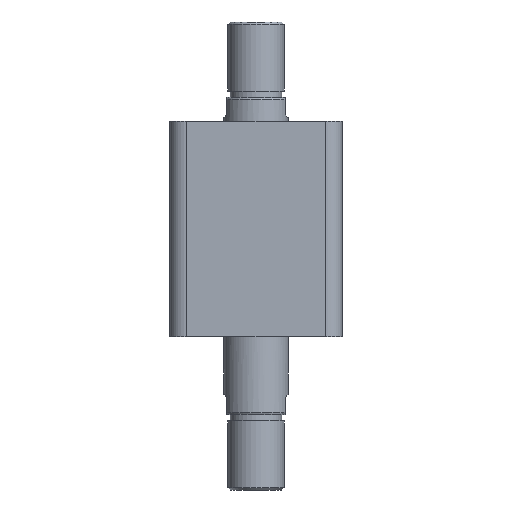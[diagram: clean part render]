
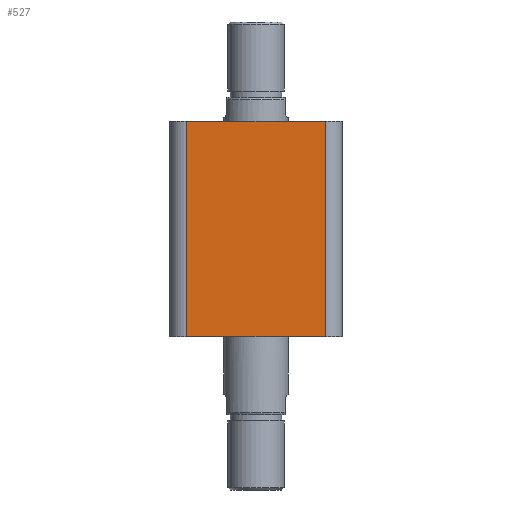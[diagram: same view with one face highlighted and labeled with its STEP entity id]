
A CAD part, front view. The second image highlights one B-rep face of the part: STEP entity #527.
In plain terms, the highlighted planar face has unit normal (0, -1, 0).
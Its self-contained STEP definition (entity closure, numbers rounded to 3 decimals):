
#31 = EDGE_LOOP ( 'NONE', ( #1090, #1091, #1092, #1093 ) ) ;
#303 = LINE ( 'NONE', #2541, #316 ) ;
#309 = LINE ( 'NONE', #2551, #312 ) ;
#311 = LINE ( 'NONE', #2553, #314 ) ;
#312 = VECTOR ( 'NONE', #2552, 1000. ) ;
#314 = VECTOR ( 'NONE', #2554, 1000. ) ;
#315 = LINE ( 'NONE', #2556, #318 ) ;
#316 = VECTOR ( 'NONE', #2555, 1000. ) ;
#318 = VECTOR ( 'NONE', #2557, 1000. ) ;
#527 = ADVANCED_FACE ( 'NONE', ( #3274 ), #1776, .F. ) ;
#715 = CARTESIAN_POINT ( 'NONE',  ( 32., -40., 0. ) ) ;
#1090 = ORIENTED_EDGE ( 'NONE', *, *, #2158, .F. ) ;
#1091 = ORIENTED_EDGE ( 'NONE', *, *, #2159, .T. ) ;
#1092 = ORIENTED_EDGE ( 'NONE', *, *, #2160, .T. ) ;
#1093 = ORIENTED_EDGE ( 'NONE', *, *, #2161, .T. ) ;
#1369 = VERTEX_POINT ( 'NONE', #1955 ) ;
#1677 = VERTEX_POINT ( 'NONE', #715 ) ;
#1774 = CARTESIAN_POINT ( 'NONE',  ( -40., -40., 100. ) ) ;
#1776 = PLANE ( 'NONE',  #2232 ) ;
#1778 = DIRECTION ( 'NONE',  ( 0., 1., 0. ) ) ;
#1779 = DIRECTION ( 'NONE',  ( 0., 0., 1. ) ) ;
#1955 = CARTESIAN_POINT ( 'NONE',  ( 32., -40., 100. ) ) ;
#2158 = EDGE_CURVE ( 'NONE', #2731, #1369, #309, .T. ) ;
#2159 = EDGE_CURVE ( 'NONE', #2731, #2732, #311, .T. ) ;
#2160 = EDGE_CURVE ( 'NONE', #2732, #1677, #303, .T. ) ;
#2161 = EDGE_CURVE ( 'NONE', #1677, #1369, #315, .T. ) ;
#2232 = AXIS2_PLACEMENT_3D ( 'NONE', #1774, #1778, #1779 ) ;
#2541 = CARTESIAN_POINT ( 'NONE',  ( -40., -40., 0. ) ) ;
#2551 = CARTESIAN_POINT ( 'NONE',  ( -40., -40., 100. ) ) ;
#2552 = DIRECTION ( 'NONE',  ( 1., 0., 0. ) ) ;
#2553 = CARTESIAN_POINT ( 'NONE',  ( -32., -40., 100. ) ) ;
#2554 = DIRECTION ( 'NONE',  ( 0., 0., -1. ) ) ;
#2555 = DIRECTION ( 'NONE',  ( 1., 0., 0. ) ) ;
#2556 = CARTESIAN_POINT ( 'NONE',  ( 32., -40., 100. ) ) ;
#2557 = DIRECTION ( 'NONE',  ( 0., 0., 1. ) ) ;
#2680 = CARTESIAN_POINT ( 'NONE',  ( -32., -40., 100. ) ) ;
#2690 = CARTESIAN_POINT ( 'NONE',  ( -32., -40., 0. ) ) ;
#2731 = VERTEX_POINT ( 'NONE', #2680 ) ;
#2732 = VERTEX_POINT ( 'NONE', #2690 ) ;
#3274 = FACE_OUTER_BOUND ( 'NONE', #31, .T. ) ;
